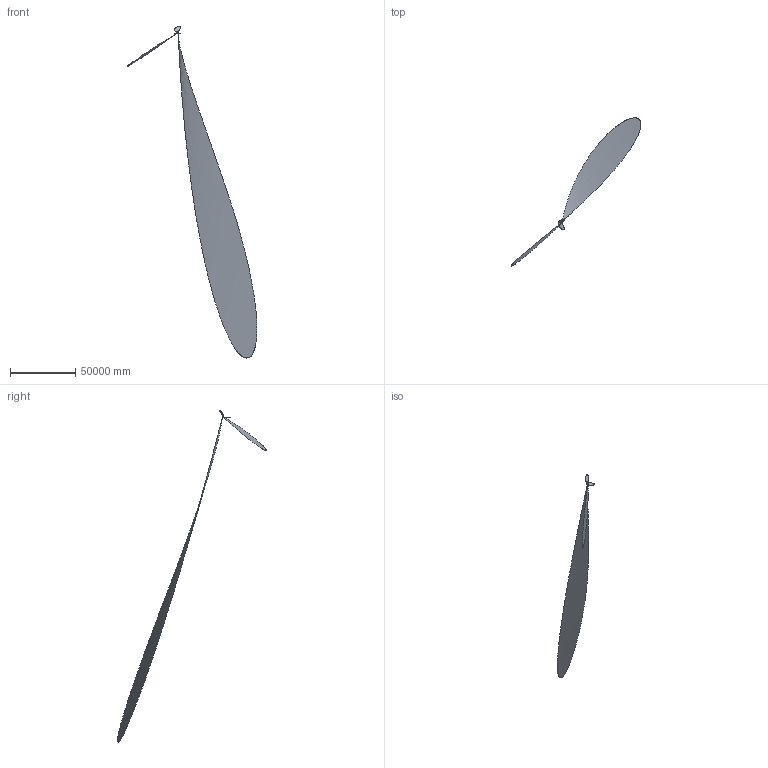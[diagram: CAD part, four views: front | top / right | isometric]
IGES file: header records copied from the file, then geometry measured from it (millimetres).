
Global section: file name: F:\_CONVERSIONE_CAD_2024_2025\_2024\03_3D kits new\Sinks\MYTHOS\114.0706.783 3D001_Sinks_Mythos_MTG-611-RHD\3D001_Sinks_Mythos_MTG-611-RHD.igs; native system: Rhinoceros ( Jun 11 2024 ); preprocessor: Trout Lake IGES 012 Jun 11 2024; date: 240626.101711; units: millimetre
Bounding box: 99516.97 x 114074.14 x 254527.93 mm (x, y, z)
Surface area: 6472330638.5 mm2 (no closed solid volume)
Topology: 0 solids, 0 shells, 1228 faces, 14603 edges, 14494 vertices
Faces by surface type: bspline 1228
